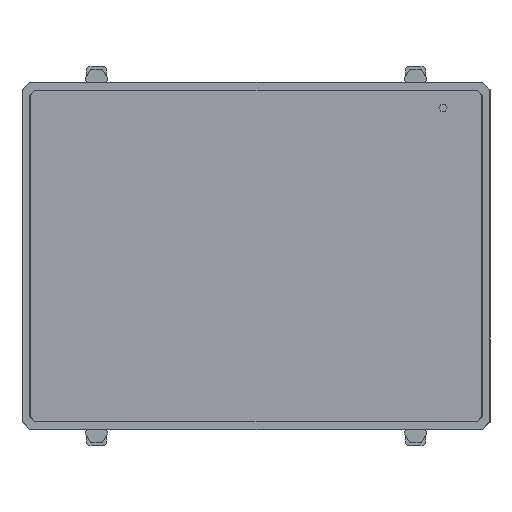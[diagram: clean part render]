
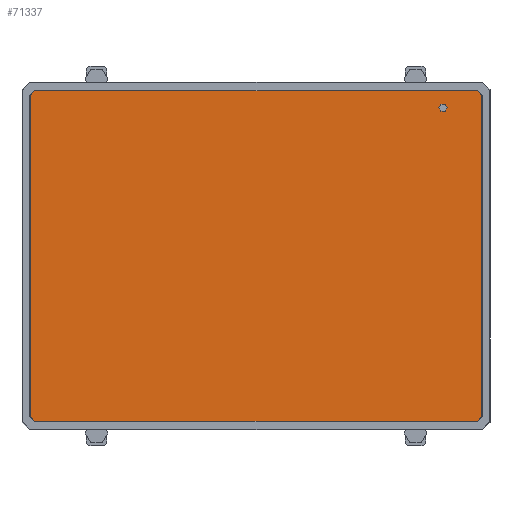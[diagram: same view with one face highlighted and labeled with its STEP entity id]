
A CAD part, top view. The second image highlights one B-rep face of the part: STEP entity #71337.
In plain terms, the highlighted planar face has unit normal (0, 0, 1).
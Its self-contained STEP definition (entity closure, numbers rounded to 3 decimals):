
#682 = CARTESIAN_POINT ( 'NONE',  ( -89.607, -64.943, -0.1 ) ) ;
#1949 = CARTESIAN_POINT ( 'NONE',  ( 76.2, 59., -0.1 ) ) ;
#2000 = VECTOR ( 'NONE', #48110, 1000. ) ;
#3424 = CARTESIAN_POINT ( 'NONE',  ( -50., 55.65, -0.1 ) ) ;
#3781 = CARTESIAN_POINT ( 'NONE',  ( 89.8, -64.476, -0.1 ) ) ;
#4567 = CARTESIAN_POINT ( 'NONE',  ( -89.8, 64.476, -0.1 ) ) ;
#5116 = CARTESIAN_POINT ( 'NONE',  ( -89.8, 64.005, -0.1 ) ) ;
#5642 = B_SPLINE_CURVE_WITH_KNOTS ( 'NONE', 3,
 ( #17294, #50116, #682, #51517, #23069, #12233 ),
 .UNSPECIFIED., .F., .F.,
 ( 4, 2, 4 ),
 ( 0., 0.5, 1. ),
 .UNSPECIFIED. ) ;
#5651 = CARTESIAN_POINT ( 'NONE',  ( 89.8, 64.476, -0.1 ) ) ;
#5718 = VERTEX_POINT ( 'NONE', #53194 ) ;
#6112 = VERTEX_POINT ( 'NONE', #69715 ) ;
#6419 = EDGE_LOOP ( 'NONE', ( #39363, #27055 ) ) ;
#7117 = AXIS2_PLACEMENT_3D ( 'NONE', #65512, #53257, #48197 ) ;
#7396 = VERTEX_POINT ( 'NONE', #5116 ) ;
#7481 = VERTEX_POINT ( 'NONE', #44776 ) ;
#7652 = ORIENTED_EDGE ( 'NONE', *, *, #14664, .F. ) ;
#7764 = FACE_OUTER_BOUND ( 'NONE', #33975, .T. ) ;
#7932 = EDGE_CURVE ( 'NONE', #50552, #7481, #5642, .T. ) ;
#9643 = CARTESIAN_POINT ( 'NONE',  ( -89.8, 64.005, -0.1 ) ) ;
#9779 = CARTESIAN_POINT ( 'NONE',  ( 0., 65.8, -0.1 ) ) ;
#10601 = ORIENTED_EDGE ( 'NONE', *, *, #35554, .T. ) ;
#11058 = CARTESIAN_POINT ( 'NONE',  ( 89.8, 0., -0.1 ) ) ;
#11677 = B_SPLINE_CURVE_WITH_KNOTS ( 'NONE', 3,
 ( #31230, #70889, #64743, #53205, #3781, #25820 ),
 .UNSPECIFIED., .F., .F.,
 ( 4, 2, 4 ),
 ( 0., 0.5, 1. ),
 .UNSPECIFIED. ) ;
#12133 = AXIS2_PLACEMENT_3D ( 'NONE', #3424, #41682, #18617 ) ;
#12233 = CARTESIAN_POINT ( 'NONE',  ( -88.005, -65.8, -0.1 ) ) ;
#14664 = EDGE_CURVE ( 'NONE', #50552, #7396, #33817, .T. ) ;
#15840 = CARTESIAN_POINT ( 'NONE',  ( 72.8, 59., -0.1 ) ) ;
#16228 = ORIENTED_EDGE ( 'NONE', *, *, #29181, .F. ) ;
#17294 = CARTESIAN_POINT ( 'NONE',  ( -89.8, -64.005, -0.1 ) ) ;
#17801 = ORIENTED_EDGE ( 'NONE', *, *, #7932, .T. ) ;
#18617 = DIRECTION ( 'NONE',  ( 1., 0., 0. ) ) ;
#19445 = VERTEX_POINT ( 'NONE', #20359 ) ;
#19691 = FACE_BOUND ( 'NONE', #6419, .T. ) ;
#20073 = ORIENTED_EDGE ( 'NONE', *, *, #64071, .F. ) ;
#20359 = CARTESIAN_POINT ( 'NONE',  ( -88.005, 65.8, -0.1 ) ) ;
#21081 = EDGE_CURVE ( 'NONE', #6112, #5718, #50344, .T. ) ;
#21196 = CARTESIAN_POINT ( 'NONE',  ( -89.607, 64.943, -0.1 ) ) ;
#21437 = LINE ( 'NONE', #43424, #2000 ) ;
#22405 = DIRECTION ( 'NONE',  ( 0., 0., -1. ) ) ;
#23069 = CARTESIAN_POINT ( 'NONE',  ( -88.476, -65.8, -0.1 ) ) ;
#25820 = CARTESIAN_POINT ( 'NONE',  ( 89.8, -64.005, -0.1 ) ) ;
#26739 = LINE ( 'NONE', #9779, #51866 ) ;
#27055 = ORIENTED_EDGE ( 'NONE', *, *, #65470, .T. ) ;
#29181 = EDGE_CURVE ( 'NONE', #44570, #7481, #21437, .T. ) ;
#30614 = EDGE_CURVE ( 'NONE', #6112, #68233, #45097, .T. ) ;
#31230 = CARTESIAN_POINT ( 'NONE',  ( 88.005, -65.8, -0.1 ) ) ;
#31313 = AXIS2_PLACEMENT_3D ( 'NONE', #39694, #22405, #44399 ) ;
#31547 = B_SPLINE_CURVE_WITH_KNOTS ( 'NONE', 3,
 ( #42456, #53988, #64466, #21196, #4567, #9643 ),
 .UNSPECIFIED., .F., .F.,
 ( 4, 2, 4 ),
 ( 0., 0.5, 1. ),
 .UNSPECIFIED. ) ;
#33451 = CARTESIAN_POINT ( 'NONE',  ( 88.005, 65.8, -0.1 ) ) ;
#33529 = ORIENTED_EDGE ( 'NONE', *, *, #21081, .F. ) ;
#33817 = LINE ( 'NONE', #39563, #44579 ) ;
#33975 = EDGE_LOOP ( 'NONE', ( #20073, #10601, #7652, #17801, #16228, #44850, #33529, #64372 ) ) ;
#35554 = EDGE_CURVE ( 'NONE', #19445, #7396, #31547, .T. ) ;
#37069 = EDGE_CURVE ( 'NONE', #44570, #5718, #11677, .T. ) ;
#39363 = ORIENTED_EDGE ( 'NONE', *, *, #66134, .T. ) ;
#39563 = CARTESIAN_POINT ( 'NONE',  ( -89.8, 0., -0.1 ) ) ;
#39694 = CARTESIAN_POINT ( 'NONE',  ( 74.5, 59., -0.1 ) ) ;
#40674 = VECTOR ( 'NONE', #44928, 1000. ) ;
#41682 = DIRECTION ( 'NONE',  ( 0., 0., 1. ) ) ;
#42456 = CARTESIAN_POINT ( 'NONE',  ( -88.005, 65.8, -0.1 ) ) ;
#43424 = CARTESIAN_POINT ( 'NONE',  ( 0., -65.8, -0.1 ) ) ;
#43545 = CARTESIAN_POINT ( 'NONE',  ( 89.607, 64.943, -0.1 ) ) ;
#43908 = CARTESIAN_POINT ( 'NONE',  ( 88.476, 65.8, -0.1 ) ) ;
#44012 = CIRCLE ( 'NONE', #7117, 1.7 ) ;
#44399 = DIRECTION ( 'NONE',  ( -1., 0., 0. ) ) ;
#44570 = VERTEX_POINT ( 'NONE', #49599 ) ;
#44579 = VECTOR ( 'NONE', #55447, 1000. ) ;
#44776 = CARTESIAN_POINT ( 'NONE',  ( -88.005, -65.8, -0.1 ) ) ;
#44850 = ORIENTED_EDGE ( 'NONE', *, *, #37069, .T. ) ;
#44928 = DIRECTION ( 'NONE',  ( 0., -1., 0. ) ) ;
#45097 = B_SPLINE_CURVE_WITH_KNOTS ( 'NONE', 3,
 ( #50732, #5651, #43545, #65551, #43908, #33451 ),
 .UNSPECIFIED., .F., .F.,
 ( 4, 2, 4 ),
 ( 0., 0.5, 1. ),
 .UNSPECIFIED. ) ;
#45964 = CARTESIAN_POINT ( 'NONE',  ( -89.8, -64.005, -0.1 ) ) ;
#47449 = PLANE ( 'NONE',  #12133 ) ;
#48110 = DIRECTION ( 'NONE',  ( -1., 0., 0. ) ) ;
#48197 = DIRECTION ( 'NONE',  ( -1., 0., 0. ) ) ;
#48717 = DIRECTION ( 'NONE',  ( 1., 0., 0. ) ) ;
#49599 = CARTESIAN_POINT ( 'NONE',  ( 88.005, -65.8, -0.1 ) ) ;
#50116 = CARTESIAN_POINT ( 'NONE',  ( -89.8, -64.476, -0.1 ) ) ;
#50344 = LINE ( 'NONE', #11058, #40674 ) ;
#50552 = VERTEX_POINT ( 'NONE', #45964 ) ;
#50732 = CARTESIAN_POINT ( 'NONE',  ( 89.8, 64.005, -0.1 ) ) ;
#51517 = CARTESIAN_POINT ( 'NONE',  ( -88.943, -65.607, -0.1 ) ) ;
#51866 = VECTOR ( 'NONE', #48717, 1000. ) ;
#53194 = CARTESIAN_POINT ( 'NONE',  ( 89.8, -64.005, -0.1 ) ) ;
#53205 = CARTESIAN_POINT ( 'NONE',  ( 89.607, -64.943, -0.1 ) ) ;
#53257 = DIRECTION ( 'NONE',  ( 0., 0., -1. ) ) ;
#53988 = CARTESIAN_POINT ( 'NONE',  ( -88.476, 65.8, -0.1 ) ) ;
#54295 = CIRCLE ( 'NONE', #31313, 1.7 ) ;
#55304 = VERTEX_POINT ( 'NONE', #1949 ) ;
#55447 = DIRECTION ( 'NONE',  ( 0., 1., 0. ) ) ;
#55639 = CARTESIAN_POINT ( 'NONE',  ( 88.005, 65.8, -0.1 ) ) ;
#64071 = EDGE_CURVE ( 'NONE', #19445, #68233, #26739, .T. ) ;
#64372 = ORIENTED_EDGE ( 'NONE', *, *, #30614, .T. ) ;
#64466 = CARTESIAN_POINT ( 'NONE',  ( -88.943, 65.607, -0.1 ) ) ;
#64743 = CARTESIAN_POINT ( 'NONE',  ( 88.943, -65.607, -0.1 ) ) ;
#65470 = EDGE_CURVE ( 'NONE', #65668, #55304, #54295, .T. ) ;
#65512 = CARTESIAN_POINT ( 'NONE',  ( 74.5, 59., -0.1 ) ) ;
#65551 = CARTESIAN_POINT ( 'NONE',  ( 88.943, 65.607, -0.1 ) ) ;
#65668 = VERTEX_POINT ( 'NONE', #15840 ) ;
#66134 = EDGE_CURVE ( 'NONE', #55304, #65668, #44012, .T. ) ;
#68233 = VERTEX_POINT ( 'NONE', #55639 ) ;
#69715 = CARTESIAN_POINT ( 'NONE',  ( 89.8, 64.005, -0.1 ) ) ;
#70889 = CARTESIAN_POINT ( 'NONE',  ( 88.476, -65.8, -0.1 ) ) ;
#71337 = ADVANCED_FACE ( 'NONE', ( #7764, #19691 ), #47449, .T. ) ;
